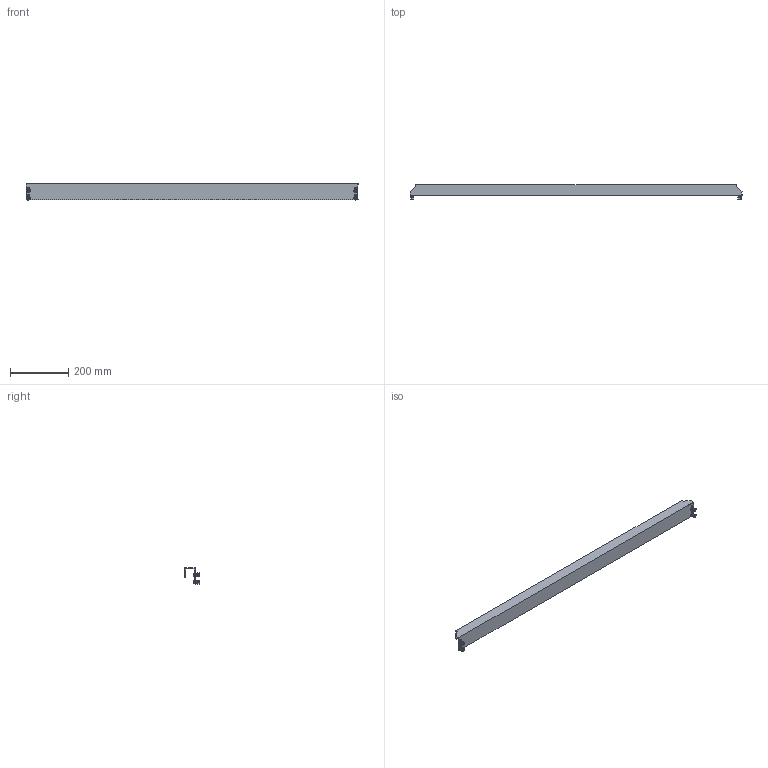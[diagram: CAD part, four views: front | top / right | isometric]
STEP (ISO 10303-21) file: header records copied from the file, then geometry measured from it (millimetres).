
FILE_DESCRIPTION(('Open CASCADE Model'),'2;1');
FILE_NAME('Open CASCADE Shape Model','2025-02-20T14:06:10',('Author'),( 'Open CASCADE'),'Open CASCADE STEP processor 7.8','Open CASCADE 7.8' ,'Unknown');
FILE_SCHEMA(('AUTOMOTIVE_DESIGN { 1 0 10303 214 1 1 1 1 }'));
Length unit declared in the file: millimetre
Products named in the file (4): Compound1; Solid1; Solid2; Solid3
Assembly tree (9 placements, depth 2):
  Compound1
    Solid1
    Solid2  x4
    Solid3  x4
Bounding box: 1140 x 50 x 55.58 mm (x, y, z)
Volume: 383427.3 mm3; surface area: 274064.5 mm2
Topology: 13 solids, 13 shells, 958 faces, 2552 edges, 1612 vertices
Faces by surface type: plane 440, cylinder 250, bspline 168, torus 56, cone 40, sphere 4
Full cylindrical faces by diameter (mm): 6 x4, 6.5 x4, 8.3 x4, 12 x4
Entity records: 16430 total; most frequent: CARTESIAN_POINT 6122, ORIENTED_EDGE 2210, DIRECTION 1996, EDGE_CURVE 1105, VERTEX_POINT 715, AXIS2_PLACEMENT_3D 680, LINE 636, VECTOR 636
